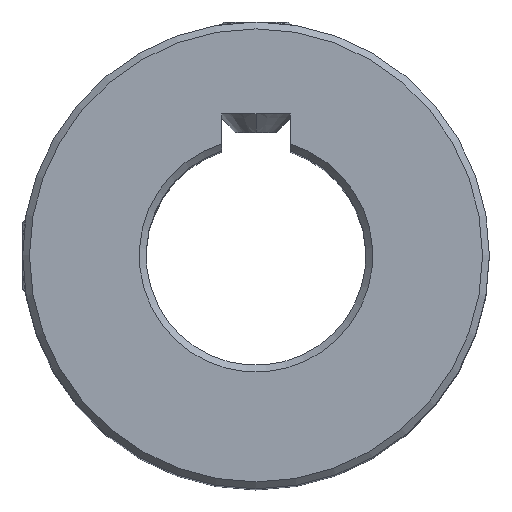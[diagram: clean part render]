
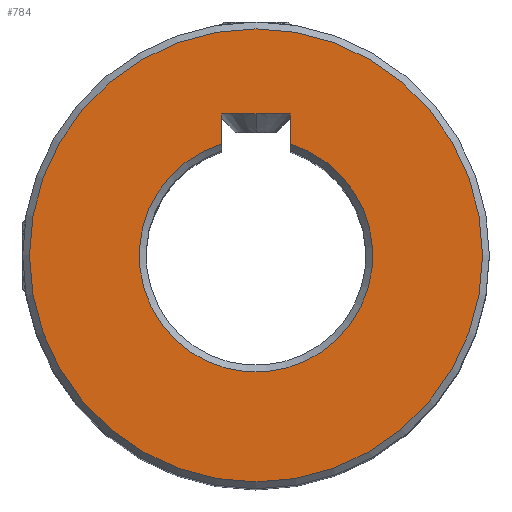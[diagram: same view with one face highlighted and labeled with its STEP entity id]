
A CAD part, top view. The second image highlights one B-rep face of the part: STEP entity #784.
In plain terms, the highlighted planar face has unit normal (0, 0, 1).
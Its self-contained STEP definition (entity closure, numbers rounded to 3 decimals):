
#117 = VERTEX_POINT ( 'NONE', #3988 ) ;
#610 = DIRECTION ( 'NONE',  ( 0., 0., -1. ) ) ;
#784 = ADVANCED_FACE ( 'NONE', ( #2837, #1045 ), #2920, .T. ) ;
#965 = EDGE_LOOP ( 'NONE', ( #5340 ) ) ;
#1045 = FACE_OUTER_BOUND ( 'NONE', #965, .T. ) ;
#1054 = CIRCLE ( 'NONE', #5144, 16.5 ) ;
#1194 = VECTOR ( 'NONE', #5695, 1000. ) ;
#1242 = CARTESIAN_POINT ( 'NONE',  ( 2.5, 10.3, 25. ) ) ;
#1418 = LINE ( 'NONE', #3257, #1194 ) ;
#1569 = EDGE_CURVE ( 'NONE', #4242, #4242, #1054, .T. ) ;
#1788 = DIRECTION ( 'NONE',  ( 1., 0., 0. ) ) ;
#1820 = DIRECTION ( 'NONE',  ( 1., 0., 0. ) ) ;
#1982 = VECTOR ( 'NONE', #5258, 1000. ) ;
#2304 = CARTESIAN_POINT ( 'NONE',  ( 0., 0., 25. ) ) ;
#2456 = CARTESIAN_POINT ( 'NONE',  ( -2.5, 10.3, 25. ) ) ;
#2837 = FACE_BOUND ( 'NONE', #4934, .T. ) ;
#2920 = PLANE ( 'NONE',  #3868 ) ;
#2960 = DIRECTION ( 'NONE',  ( 0., 0., 1. ) ) ;
#3124 = DIRECTION ( 'NONE',  ( 0., 0., 1. ) ) ;
#3257 = CARTESIAN_POINT ( 'NONE',  ( 2.5, 10.3, 25. ) ) ;
#3448 = CARTESIAN_POINT ( 'NONE',  ( -2.5, 8.124, 25. ) ) ;
#3655 = CIRCLE ( 'NONE', #4812, 8.5 ) ;
#3687 = DIRECTION ( 'NONE',  ( 0., -1., 0. ) ) ;
#3868 = AXIS2_PLACEMENT_3D ( 'NONE', #2304, #3124, #1820 ) ;
#3988 = CARTESIAN_POINT ( 'NONE',  ( -2.5, 10.3, 25. ) ) ;
#3995 = CARTESIAN_POINT ( 'NONE',  ( 2.5, 10.3, 25. ) ) ;
#4078 = EDGE_CURVE ( 'NONE', #117, #6931, #6885, .T. ) ;
#4178 = EDGE_CURVE ( 'NONE', #6932, #6931, #3655, .T. ) ;
#4242 = VERTEX_POINT ( 'NONE', #7434 ) ;
#4812 = AXIS2_PLACEMENT_3D ( 'NONE', #8098, #610, #1788 ) ;
#4833 = DIRECTION ( 'NONE',  ( 1., 0., 0. ) ) ;
#4934 = EDGE_LOOP ( 'NONE', ( #5878, #7328, #6712, #5693 ) ) ;
#5144 = AXIS2_PLACEMENT_3D ( 'NONE', #6176, #2960, #4833 ) ;
#5258 = DIRECTION ( 'NONE',  ( 0., 1., 0. ) ) ;
#5331 = CARTESIAN_POINT ( 'NONE',  ( 2.5, 8.124, 25. ) ) ;
#5339 = VECTOR ( 'NONE', #3687, 1000. ) ;
#5340 = ORIENTED_EDGE ( 'NONE', *, *, #1569, .T. ) ;
#5693 = ORIENTED_EDGE ( 'NONE', *, *, #6637, .F. ) ;
#5695 = DIRECTION ( 'NONE',  ( -1., 0., 0. ) ) ;
#5878 = ORIENTED_EDGE ( 'NONE', *, *, #6852, .F. ) ;
#6176 = CARTESIAN_POINT ( 'NONE',  ( 0., 0., 25. ) ) ;
#6612 = LINE ( 'NONE', #3995, #1982 ) ;
#6637 = EDGE_CURVE ( 'NONE', #7836, #117, #1418, .T. ) ;
#6712 = ORIENTED_EDGE ( 'NONE', *, *, #4078, .F. ) ;
#6852 = EDGE_CURVE ( 'NONE', #6932, #7836, #6612, .T. ) ;
#6885 = LINE ( 'NONE', #2456, #5339 ) ;
#6931 = VERTEX_POINT ( 'NONE', #3448 ) ;
#6932 = VERTEX_POINT ( 'NONE', #5331 ) ;
#7328 = ORIENTED_EDGE ( 'NONE', *, *, #4178, .T. ) ;
#7434 = CARTESIAN_POINT ( 'NONE',  ( 16.5, 0., 25. ) ) ;
#7836 = VERTEX_POINT ( 'NONE', #1242 ) ;
#8098 = CARTESIAN_POINT ( 'NONE',  ( 0., 0., 25. ) ) ;
